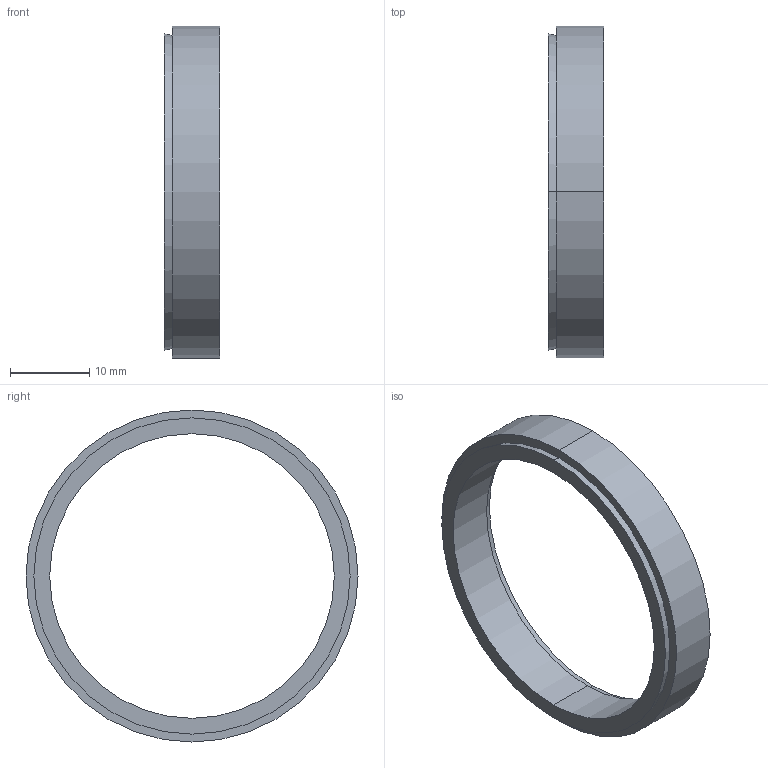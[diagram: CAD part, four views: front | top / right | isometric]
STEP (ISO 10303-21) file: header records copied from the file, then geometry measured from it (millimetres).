
FILE_DESCRIPTION (( 'STEP AP203' ), '1' );
FILE_NAME ('SC-36.STEP', '2009-09-29T15:59:43', ( 'USER' ), ( 'HOME' ), 'SwSTEP 2.0', 'SolidWorks 2007', '' );
FILE_SCHEMA (( 'CONFIG_CONTROL_DESIGN' ));
Length unit declared in the file: millimetre
Products named in the file (1): SC-36
Bounding box: 7 x 42 x 42 mm (x, y, z)
Volume: 2360.9 mm3; surface area: 3741.6 mm2
Topology: 2 solids, 2 shells, 12 faces, 24 edges, 16 vertices
Faces by surface type: cone 4, cylinder 4, plane 4
Entity records: 407 total; most frequent: DIRECTION 66, CARTESIAN_POINT 53, ORIENTED_EDGE 48, AXIS2_PLACEMENT_3D 29, EDGE_CURVE 24, CIRCLE 16, EDGE_LOOP 16, VERTEX_POINT 16
